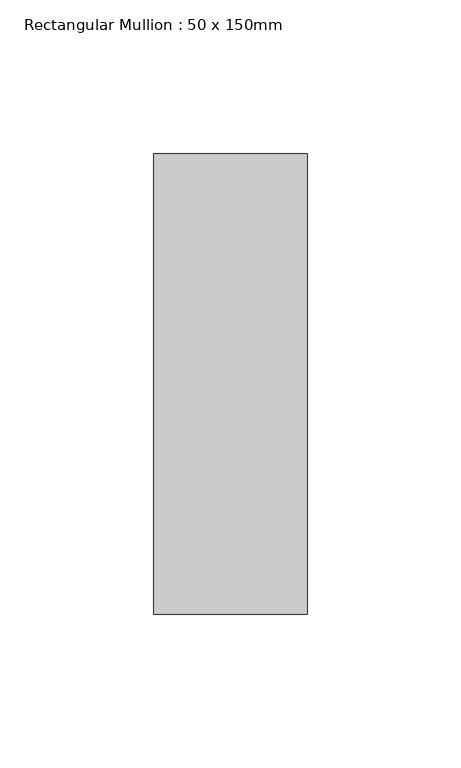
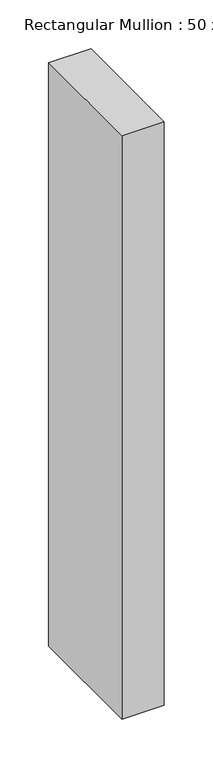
"""IFC4 building model written with IfcOpenShell, lengths in millimetres: member geometry, Rectangular Mullion : 50 x 150mm."""

from ifc_helpers import new_model, si_unit, frame, origin, place, context, project, spatial, polyline, outline, extrude, source, transform, mapped, element, save


def rectangular_mullion_50_x_150mm_ddcdbc05(model_context):
    return source(origin(), model_context, "Body", "SweptSolid", [
        extrude(outline(polyline([(0.0, 75.0), (0.0, -75.0), (-50.0, -75.0), (-50.0, 75.0), (0.0, 75.0)])), frame((0.0, 0.0, -730.0000003), z_axis=(0.0, 0.0, 1.0), x_axis=(1.0, 0.0, 0.0)), (0.0, 0.0, 1.0), 730.0000003),
    ])


if __name__ == "__main__":
    model = new_model("IFC4")
    model_context = context("Model", 3, world=origin())
    ifc_project = project(units=[si_unit("LENGTHUNIT", "METRE", prefix="MILLI")], contexts=[model_context])
    site = spatial("IfcSite", under=ifc_project)
    building = spatial("IfcBuilding", under=site)
    placement = place(None, origin())
    rectangular_mullion_50_x_150mm_shape = rectangular_mullion_50_x_150mm_ddcdbc05(model_context)
    element("IfcMember", 1, ObjectType="Rectangular Mullion : 50 x 150mm", at=placement, inside=building, context=model_context, shape_type="MappedRepresentation", body=[
        mapped(rectangular_mullion_50_x_150mm_shape, transform((0.0, 0.0, 0.0), x_axis=(1.0, 0.0, 0.0), y_axis=(0.0, 1.0, 0.0), z_axis=(0.0, 0.0, 1.0))),
    ])
    save(model, "model.ifc")
